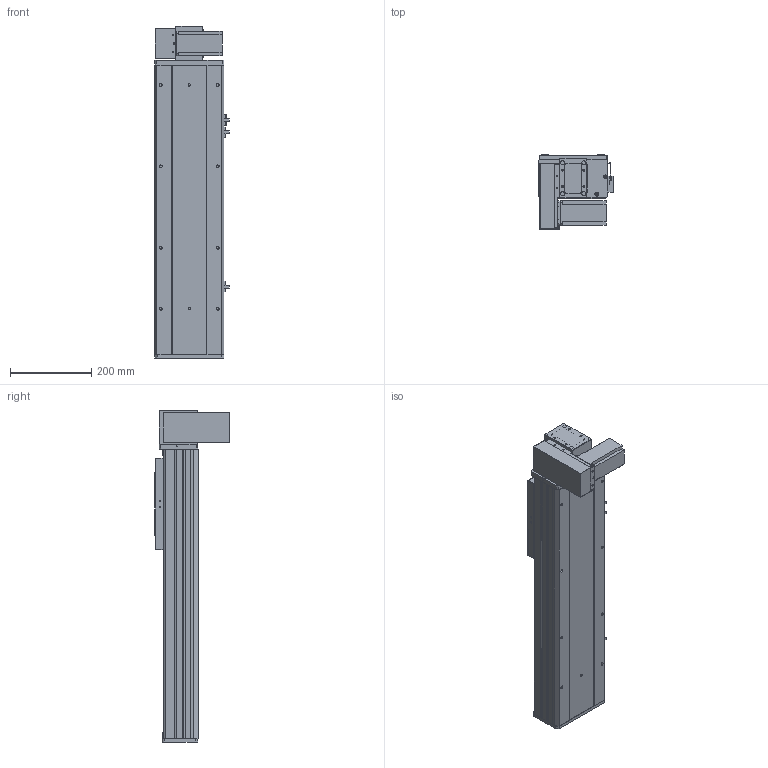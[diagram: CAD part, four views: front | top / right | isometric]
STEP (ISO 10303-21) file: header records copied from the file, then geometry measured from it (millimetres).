
FILE_DESCRIPTION (( 'STEP AP203' ), '1' );
FILE_NAME ('Y170CB-D105-S400-BM-P400W.STEP', '2020-02-20T06:11:20', ( '微软用户' ), ( '微软中国' ), 'SwSTEP 2.0', 'SolidWorks 2017', '' );
FILE_SCHEMA (( 'CONFIG_CONTROL_DESIGN' ));
Length unit declared in the file: millimetre
Products named in the file (18): 70B喘謫眊----; 70C-雄赽釱-奻-; B-源倛裔啣; Y170CB-D105-S400-BM-P400W; 0C--雄赽釱俋欶-170; 0B-萇儂楊擘啣; 70CB-詩湍--; san松下电机400不带刹车----; Y100-135俋离換覜ん--; 70CB-掛极-; Y170CB-陔俋离換覜結え---; --70CB --喘謫眊楊擘啣-; Y1埴倛裔; 70CB-耜裔啣-; 17B-耜蚾蟀諉啣----; 70C--詩湍揤踡え-; 00B-俋欶BM--163; 70CB--耜裔
Assembly tree (21 placements, depth 2):
  Y170CB-D105-S400-BM-P400W
    B-源倛裔啣
    0B-萇儂楊擘啣
    san松下电机400不带刹车----
    70CB-掛极-
    --70CB --喘謫眊楊擘啣-
    70CB-耜裔啣-  x2
    70C--詩湍揤踡え-  x2
    70CB--耜裔
    70C-雄赽釱-奻-
    0C--雄赽釱俋欶-170
    70CB-詩湍--
    Y100-135俋离換覜ん--  x3
    Y170CB-陔俋离換覜結え---
    Y1埴倛裔
    17B-耜蚾蟀諉啣----
    00B-俋欶BM--163
    70B喘謫眊----
Bounding box: 183.5 x 184 x 816 mm (x, y, z)
Volume: 4177164.7 mm3; surface area: 1483598.3 mm2
Topology: 21 solids, 21 shells, 983 faces, 2621 edges, 1738 vertices
Faces by surface type: cylinder 497, plane 462, cone 24
Entity records: 31160 total; most frequent: CARTESIAN_POINT 5676, DIRECTION 5066, ORIENTED_EDGE 4724, EDGE_CURVE 2362, AXIS2_PLACEMENT_3D 1848, VERTEX_POINT 1568, VECTOR 1370, LINE 1370
